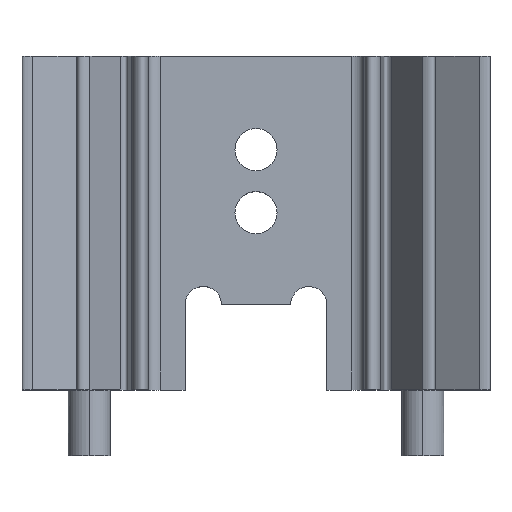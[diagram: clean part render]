
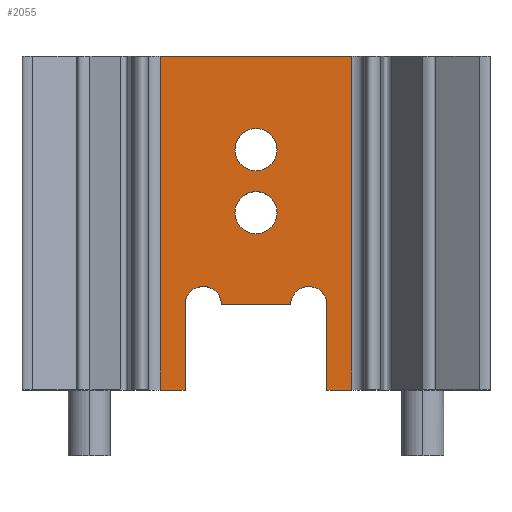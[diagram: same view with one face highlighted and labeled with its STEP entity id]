
A CAD part, top view. The second image highlights one B-rep face of the part: STEP entity #2055.
In plain terms, the highlighted planar face has unit normal (0, 0, 1).
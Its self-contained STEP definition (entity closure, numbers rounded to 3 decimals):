
#5 = EDGE_CURVE ( 'NONE', #427, #2714, #2201, .T. ) ;
#20 = AXIS2_PLACEMENT_3D ( 'NONE', #2682, #2388, #2118 ) ;
#31 = ORIENTED_EDGE ( 'NONE', *, *, #452, .T. ) ;
#41 = VECTOR ( 'NONE', #1567, 1000. ) ;
#112 = CARTESIAN_POINT ( 'NONE',  ( 27.651, 25.4, -14.247 ) ) ;
#137 = CARTESIAN_POINT ( 'NONE',  ( 27.651, 0., -14.247 ) ) ;
#168 = LINE ( 'NONE', #3020, #2885 ) ;
#210 = EDGE_CURVE ( 'NONE', #1811, #2546, #3333, .T. ) ;
#254 = DIRECTION ( 'NONE',  ( 1., 0., 0. ) ) ;
#280 = EDGE_CURVE ( 'NONE', #2906, #427, #2314, .T. ) ;
#307 = CARTESIAN_POINT ( 'NONE',  ( 25.779, 25.4, -14.247 ) ) ;
#345 = ORIENTED_EDGE ( 'NONE', *, *, #1575, .T. ) ;
#351 = DIRECTION ( 'NONE',  ( 0., 0., -1. ) ) ;
#377 = DIRECTION ( 'NONE',  ( -1., 0., 0. ) ) ;
#391 = ORIENTED_EDGE ( 'NONE', *, *, #2099, .T. ) ;
#401 = AXIS2_PLACEMENT_3D ( 'NONE', #1678, #1171, #1451 ) ;
#427 = VERTEX_POINT ( 'NONE', #516 ) ;
#431 = DIRECTION ( 'NONE',  ( 0., 0., -1. ) ) ;
#452 = EDGE_CURVE ( 'NONE', #2906, #608, #1076, .T. ) ;
#454 = EDGE_CURVE ( 'NONE', #1361, #1617, #3331, .T. ) ;
#456 = AXIS2_PLACEMENT_3D ( 'NONE', #3323, #2282, #1763 ) ;
#483 = DIRECTION ( 'NONE',  ( -1., 0., 0. ) ) ;
#497 = CARTESIAN_POINT ( 'NONE',  ( 0., 25.4, -14.247 ) ) ;
#500 = DIRECTION ( 'NONE',  ( 0., -1., 0. ) ) ;
#514 = DIRECTION ( 'NONE',  ( 1., 0., 0. ) ) ;
#516 = CARTESIAN_POINT ( 'NONE',  ( 27.651, 25.4, -14.247 ) ) ;
#517 = ORIENTED_EDGE ( 'NONE', *, *, #1896, .T. ) ;
#529 = CARTESIAN_POINT ( 'NONE',  ( 14.979, 6.5, -14.247 ) ) ;
#608 = VERTEX_POINT ( 'NONE', #2878 ) ;
#617 = DIRECTION ( 'NONE',  ( 0., -1., 0. ) ) ;
#620 = AXIS2_PLACEMENT_3D ( 'NONE', #3203, #351, #1650 ) ;
#631 = FACE_BOUND ( 'NONE', #782, .T. ) ;
#636 = CARTESIAN_POINT ( 'NONE',  ( 14.979, 0., -14.247 ) ) ;
#672 = CIRCLE ( 'NONE', #620, 1.6 ) ;
#678 = FACE_BOUND ( 'NONE', #1490, .T. ) ;
#688 = ORIENTED_EDGE ( 'NONE', *, *, #1709, .F. ) ;
#734 = CARTESIAN_POINT ( 'NONE',  ( 16.365, 6.5, -14.247 ) ) ;
#770 = EDGE_CURVE ( 'NONE', #1617, #1361, #672, .T. ) ;
#782 = EDGE_LOOP ( 'NONE', ( #1204, #3317 ) ) ;
#838 = LINE ( 'NONE', #1265, #1582 ) ;
#850 = VERTEX_POINT ( 'NONE', #2514 ) ;
#883 = LINE ( 'NONE', #3398, #2970 ) ;
#929 = CARTESIAN_POINT ( 'NONE',  ( 25.779, 0., -14.247 ) ) ;
#941 = VERTEX_POINT ( 'NONE', #955 ) ;
#955 = CARTESIAN_POINT ( 'NONE',  ( 17.752, 6.5, -14.247 ) ) ;
#1009 = EDGE_CURVE ( 'NONE', #1988, #1362, #1906, .T. ) ;
#1076 = LINE ( 'NONE', #1543, #2723 ) ;
#1135 = CIRCLE ( 'NONE', #401, 1.6 ) ;
#1171 = DIRECTION ( 'NONE',  ( 0., 0., -1. ) ) ;
#1203 = CIRCLE ( 'NONE', #2108, 1.386 ) ;
#1204 = ORIENTED_EDGE ( 'NONE', *, *, #770, .T. ) ;
#1211 = EDGE_CURVE ( 'NONE', #1362, #1988, #1135, .T. ) ;
#1247 = ORIENTED_EDGE ( 'NONE', *, *, #2496, .T. ) ;
#1249 = DIRECTION ( 'NONE',  ( -1., 0., 0. ) ) ;
#1265 = CARTESIAN_POINT ( 'NONE',  ( 0., 0., -14.247 ) ) ;
#1287 = CIRCLE ( 'NONE', #20, 1.38 ) ;
#1289 = VECTOR ( 'NONE', #617, 1000. ) ;
#1298 = ORIENTED_EDGE ( 'NONE', *, *, #1211, .T. ) ;
#1318 = ORIENTED_EDGE ( 'NONE', *, *, #210, .T. ) ;
#1361 = VERTEX_POINT ( 'NONE', #1609 ) ;
#1362 = VERTEX_POINT ( 'NONE', #2398 ) ;
#1441 = CARTESIAN_POINT ( 'NONE',  ( 13.108, 25.4, -14.247 ) ) ;
#1451 = DIRECTION ( 'NONE',  ( -1., 0., 0. ) ) ;
#1471 = VECTOR ( 'NONE', #2045, 1000. ) ;
#1490 = EDGE_LOOP ( 'NONE', ( #1298, #1725 ) ) ;
#1543 = CARTESIAN_POINT ( 'NONE',  ( 13.108, 25.4, -14.247 ) ) ;
#1567 = DIRECTION ( 'NONE',  ( 1., 0., 0. ) ) ;
#1575 = EDGE_CURVE ( 'NONE', #608, #1811, #883, .T. ) ;
#1582 = VECTOR ( 'NONE', #254, 1000. ) ;
#1583 = PLANE ( 'NONE',  #3155 ) ;
#1609 = CARTESIAN_POINT ( 'NONE',  ( 21.979, 18.3, -14.247 ) ) ;
#1617 = VERTEX_POINT ( 'NONE', #2445 ) ;
#1650 = DIRECTION ( 'NONE',  ( -1., 0., 0. ) ) ;
#1673 = LINE ( 'NONE', #307, #3380 ) ;
#1678 = CARTESIAN_POINT ( 'NONE',  ( 20.379, 13.5, -14.247 ) ) ;
#1709 = EDGE_CURVE ( 'NONE', #1736, #3306, #1673, .T. ) ;
#1725 = ORIENTED_EDGE ( 'NONE', *, *, #1009, .T. ) ;
#1736 = VERTEX_POINT ( 'NONE', #929 ) ;
#1750 = EDGE_CURVE ( 'NONE', #850, #941, #168, .T. ) ;
#1763 = DIRECTION ( 'NONE',  ( -1., 0., 0. ) ) ;
#1811 = VERTEX_POINT ( 'NONE', #636 ) ;
#1896 = EDGE_CURVE ( 'NONE', #2546, #941, #1203, .T. ) ;
#1906 = CIRCLE ( 'NONE', #456, 1.6 ) ;
#1987 = FACE_OUTER_BOUND ( 'NONE', #3312, .T. ) ;
#1988 = VERTEX_POINT ( 'NONE', #2842 ) ;
#2042 = DIRECTION ( 'NONE',  ( 0., 0., -1. ) ) ;
#2045 = DIRECTION ( 'NONE',  ( 0., 1., 0. ) ) ;
#2055 = ADVANCED_FACE ( 'NONE', ( #631, #678, #1987 ), #1583, .F. ) ;
#2099 = EDGE_CURVE ( 'NONE', #850, #3306, #1287, .T. ) ;
#2108 = AXIS2_PLACEMENT_3D ( 'NONE', #734, #431, #2543 ) ;
#2118 = DIRECTION ( 'NONE',  ( -1., 0., 0. ) ) ;
#2155 = CARTESIAN_POINT ( 'NONE',  ( 25.779, 6.5, -14.247 ) ) ;
#2201 = LINE ( 'NONE', #112, #1289 ) ;
#2282 = DIRECTION ( 'NONE',  ( 0., 0., -1. ) ) ;
#2294 = ORIENTED_EDGE ( 'NONE', *, *, #1750, .F. ) ;
#2303 = ORIENTED_EDGE ( 'NONE', *, *, #5, .F. ) ;
#2314 = LINE ( 'NONE', #2349, #41 ) ;
#2349 = CARTESIAN_POINT ( 'NONE',  ( 0., 25.4, -14.247 ) ) ;
#2388 = DIRECTION ( 'NONE',  ( 0., 0., -1. ) ) ;
#2398 = CARTESIAN_POINT ( 'NONE',  ( 18.779, 13.5, -14.247 ) ) ;
#2445 = CARTESIAN_POINT ( 'NONE',  ( 18.779, 18.3, -14.247 ) ) ;
#2496 = EDGE_CURVE ( 'NONE', #1736, #2714, #838, .T. ) ;
#2514 = CARTESIAN_POINT ( 'NONE',  ( 23.019, 6.5, -14.247 ) ) ;
#2543 = DIRECTION ( 'NONE',  ( -1., 0., 0. ) ) ;
#2546 = VERTEX_POINT ( 'NONE', #529 ) ;
#2597 = AXIS2_PLACEMENT_3D ( 'NONE', #3351, #2042, #1249 ) ;
#2682 = CARTESIAN_POINT ( 'NONE',  ( 24.399, 6.5, -14.247 ) ) ;
#2714 = VERTEX_POINT ( 'NONE', #137 ) ;
#2723 = VECTOR ( 'NONE', #500, 1000. ) ;
#2842 = CARTESIAN_POINT ( 'NONE',  ( 21.979, 13.5, -14.247 ) ) ;
#2878 = CARTESIAN_POINT ( 'NONE',  ( 13.108, 0., -14.247 ) ) ;
#2885 = VECTOR ( 'NONE', #377, 1000. ) ;
#2896 = ORIENTED_EDGE ( 'NONE', *, *, #280, .F. ) ;
#2906 = VERTEX_POINT ( 'NONE', #1441 ) ;
#2970 = VECTOR ( 'NONE', #514, 1000. ) ;
#3020 = CARTESIAN_POINT ( 'NONE',  ( 0., 6.5, -14.247 ) ) ;
#3103 = DIRECTION ( 'NONE',  ( 0., 0., -1. ) ) ;
#3106 = CARTESIAN_POINT ( 'NONE',  ( 14.979, 25.4, -14.247 ) ) ;
#3141 = DIRECTION ( 'NONE',  ( 0., 1., 0. ) ) ;
#3155 = AXIS2_PLACEMENT_3D ( 'NONE', #497, #3103, #483 ) ;
#3203 = CARTESIAN_POINT ( 'NONE',  ( 20.379, 18.3, -14.247 ) ) ;
#3306 = VERTEX_POINT ( 'NONE', #2155 ) ;
#3312 = EDGE_LOOP ( 'NONE', ( #345, #1318, #517, #2294, #391, #688, #1247, #2303, #2896, #31 ) ) ;
#3317 = ORIENTED_EDGE ( 'NONE', *, *, #454, .T. ) ;
#3323 = CARTESIAN_POINT ( 'NONE',  ( 20.379, 13.5, -14.247 ) ) ;
#3331 = CIRCLE ( 'NONE', #2597, 1.6 ) ;
#3333 = LINE ( 'NONE', #3106, #1471 ) ;
#3351 = CARTESIAN_POINT ( 'NONE',  ( 20.379, 18.3, -14.247 ) ) ;
#3380 = VECTOR ( 'NONE', #3141, 1000. ) ;
#3398 = CARTESIAN_POINT ( 'NONE',  ( 0., 0., -14.247 ) ) ;
